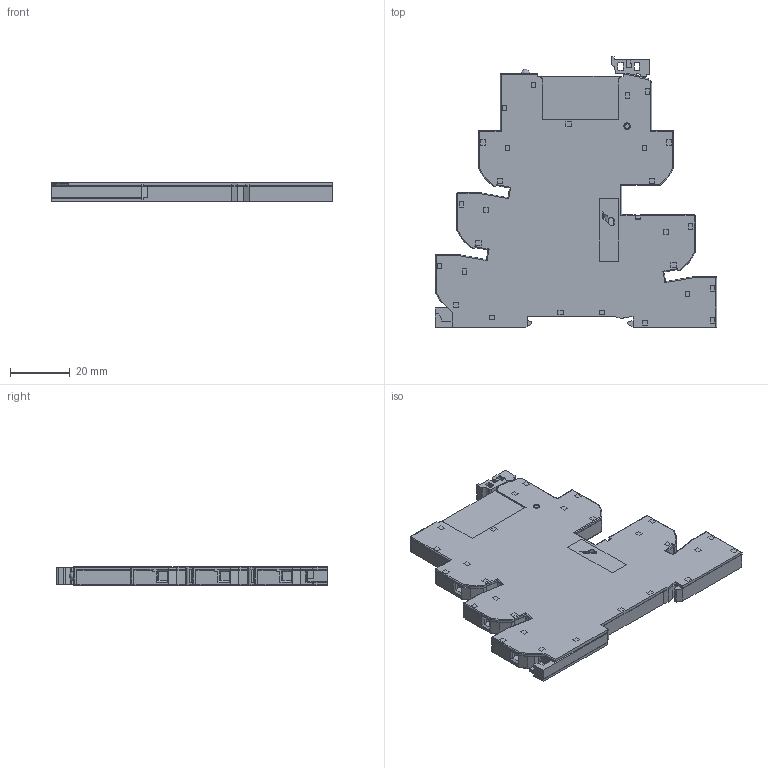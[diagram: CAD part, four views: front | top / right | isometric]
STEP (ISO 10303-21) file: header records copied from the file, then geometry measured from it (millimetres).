
FILE_DESCRIPTION(('STEP AP214'),'2;1');
FILE_NAME('3941=3451+9364.stp','2010-10-02T09:16:25',(''),(''),'2007.1.106','THINKDESIGN','');
FILE_SCHEMA(('AUTOMOTIVE_DESIGN'));
Products named in the file (1): None
Bounding box: 94.25 x 90.7 x 6.2 mm (x, y, z)
Surface area: 27629.7 mm2 (no closed solid volume)
Topology: 0 solids, 0 shells, 1205 faces, 8182 edges, 8164 vertices
Faces by surface type: plane 971, cylinder 192, bspline 42
Full cylindrical faces by diameter (mm): 2 x2, 2.2 x2, 3 x1, 3.9 x6
Entity records: 77248 total; most frequent: CARTESIAN_POINT 20501, DIRECTION 10124, COMPOSITE_CURVE_SEGMENT 8166, TRIMMED_CURVE 7479, VECTOR 7160, LINE 7160, AXIS2_PLACEMENT_3D 1482, OUTER_BOUNDARY_CURVE 1205
